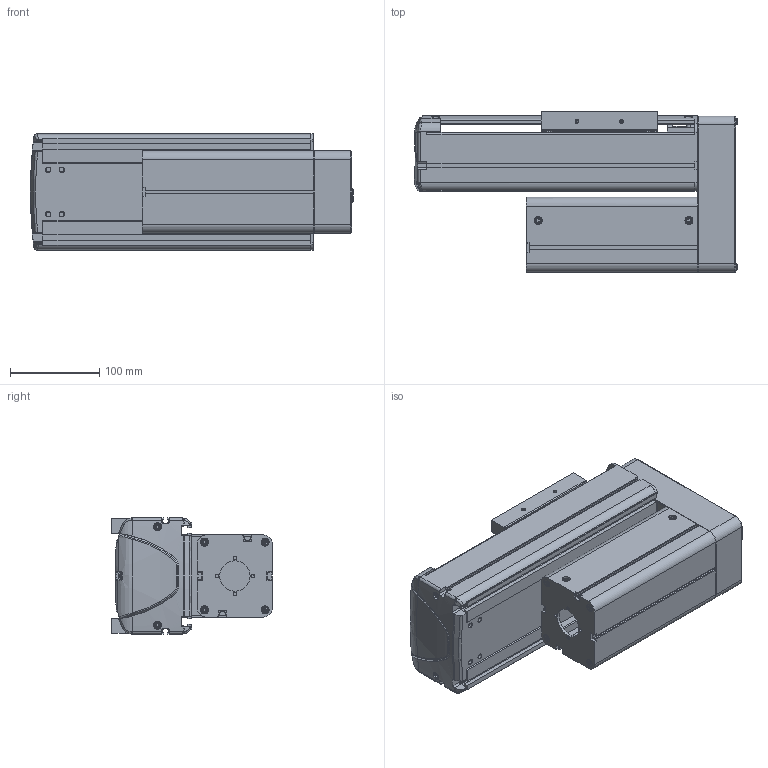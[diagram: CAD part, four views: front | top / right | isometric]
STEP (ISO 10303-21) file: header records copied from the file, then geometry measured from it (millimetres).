
FILE_DESCRIPTION((''),'2;1');
FILE_NAME('BE30E-UU-M_B-10_IGS_PRT','2017-06-17T',(' '),(''),'PRO/ENGINEER BY PARAMETRIC TECHNOLOGY CORPORATION, 2015030','PRO/ENGINEER BY PARAMETRIC TECHNOLOGY CORPORATION, 2015030','');
FILE_SCHEMA(('CONFIG_CONTROL_DESIGN'));
Length unit declared in the file: millimetre
Products named in the file (1): BE30E-UU-M_B-10_IGS_PRT
Bounding box: 361.9 x 180 x 130 mm (x, y, z)
Volume: 1630623.8 mm3; surface area: 768205.9 mm2
Topology: 2 solids, 97 shells, 1930 faces, 5153 edges, 3337 vertices
Faces by surface type: plane 981, cylinder 749, cone 107, torus 39, bspline 30, sphere 24
Entity records: 61953 total; most frequent: CARTESIAN_POINT 12979, DIRECTION 10363, ORIENTED_EDGE 9866, EDGE_CURVE 5115, AXIS2_PLACEMENT_3D 3609, VERTEX_POINT 3337, VECTOR 3145, LINE 3145
